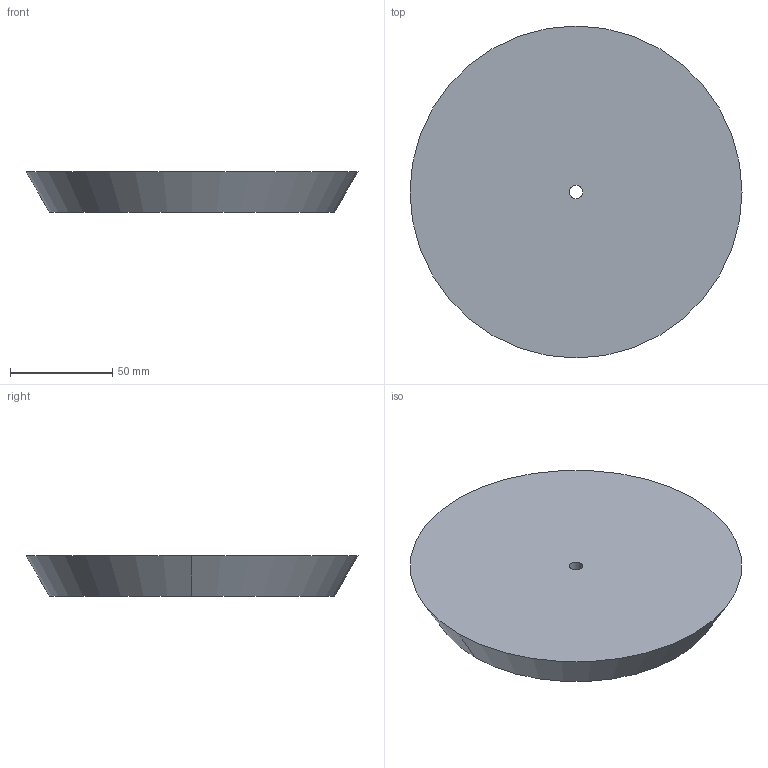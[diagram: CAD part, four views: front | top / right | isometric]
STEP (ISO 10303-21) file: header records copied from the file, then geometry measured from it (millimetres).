
FILE_DESCRIPTION(('CATIA V5 STEP Exchange'),'2;1');
FILE_NAME('C:\Users\andres.garcia\OneDrive - IQS\ASIGNATURAS\DAO\Controles\2223\c0\c1-SAMON_Miguel-tapon.stp','2023-02-03T08:22:06+00:00',('none'),('none'),'CATIA Version 5-6 Release 2013 SP6','CATIA V5 STEP AP203','none');
FILE_SCHEMA(('CONFIG_CONTROL_DESIGN'));
Length unit declared in the file: millimetre
Products named in the file (1): c1-SAMON_Miguel-tapon
Bounding box: 162 x 162 x 20 mm (x, y, z)
Volume: 355601.6 mm3; surface area: 47023.9 mm2
Topology: 1 solids, 1 shells, 6 faces, 12 edges, 8 vertices
Faces by surface type: cylinder 2, plane 2, cone 2
Entity records: 196 total; most frequent: CARTESIAN_POINT 26, ORIENTED_EDGE 24, DIRECTION 22, AXIS2_PLACEMENT_3D 14, EDGE_CURVE 12, CIRCLE 8, EDGE_LOOP 8, VERTEX_POINT 8
